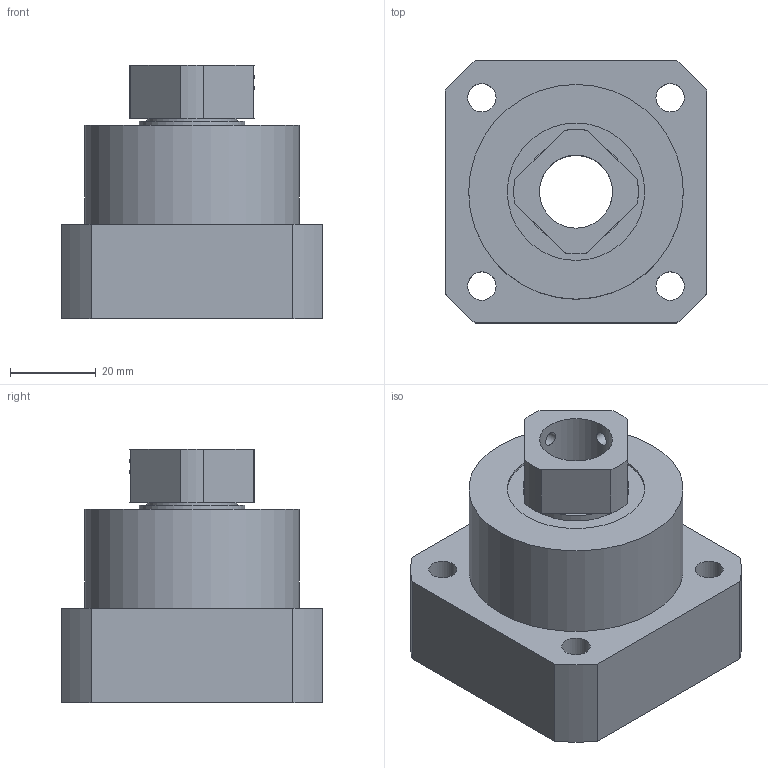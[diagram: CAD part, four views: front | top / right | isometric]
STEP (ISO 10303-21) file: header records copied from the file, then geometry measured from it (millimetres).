
FILE_DESCRIPTION(/* description */ (''),/* implementation_level */ '2;1');
FILE_NAME(/* name */ 'C:\Users\tenki620635\Desktop\官網\圖面\軸承座\3D\setp檔\FK17-Btype.stp',/* time_stamp */ '2020-12-18T19:54:54+08:00',/* author */ ('tenki620635'),/* organization */ (''),/* preprocessor_version */ 'ST-DEVELOPER v15.2',/* originating_system */ 'Autodesk Inventor 2014',/* authorisation */ '');
FILE_SCHEMA (('AUTOMOTIVE_DESIGN { 1 0 10303 214 3 1 1 }'));
Length unit declared in the file: millimetre
Products named in the file (1): FK17-Btype
Bounding box: 61 x 61 x 59 mm (x, y, z)
Volume: 112146.6 mm3; surface area: 22652.9 mm2
Topology: 1 solids, 1 shells, 46 faces, 105 edges, 71 vertices
Faces by surface type: cylinder 25, plane 21
Full cylindrical faces by diameter (mm): 3.242 x2, 6.6 x4, 11 x4, 17 x1, 21 x1, 24.5 x2, 32 x2, 50 x1
Entity records: 1375 total; most frequent: CARTESIAN_POINT 335, DIRECTION 218, ORIENTED_EDGE 168, AXIS2_PLACEMENT_3D 93, EDGE_LOOP 88, EDGE_CURVE 84, VERTEX_POINT 68, FACE_BOUND 54
